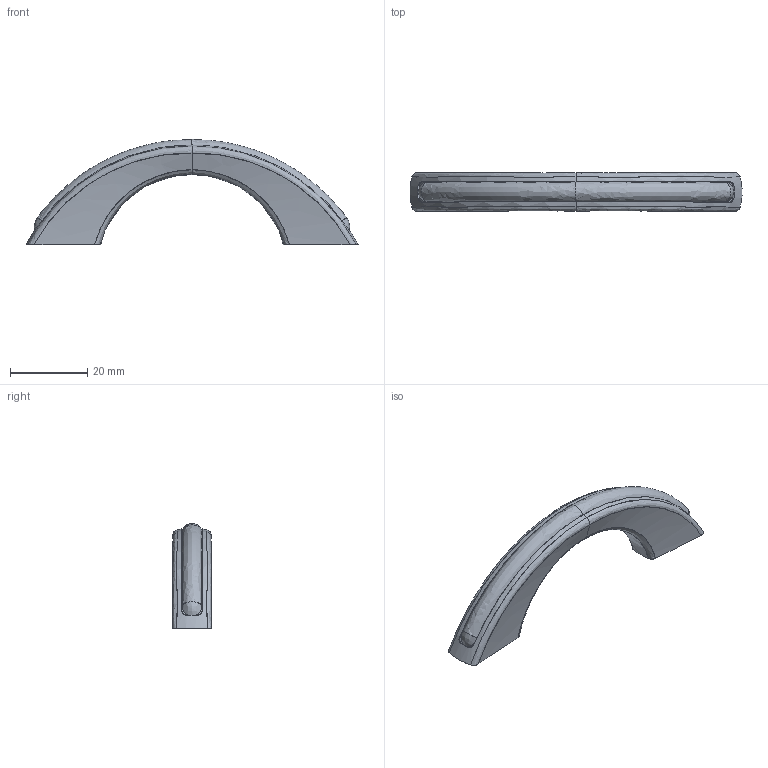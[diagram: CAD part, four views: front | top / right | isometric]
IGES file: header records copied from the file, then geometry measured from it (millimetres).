
Start section: C
Global section: file name: 0592-86.igs; native system: By Siemens PLM Incorporated; preprocessor: XPlus GENERIC/IGES 16.0.42; author: Author; organization: Title; date: 20231211.122901; units: millimetre
Bounding box: 85.96 x 10.05 x 27.19 mm (x, y, z)
Surface area: 5068.8 mm2 (no closed solid volume)
Topology: 0 solids, 0 shells, 50 faces, 240 edges, 240 vertices
Faces by surface type: bspline 50
